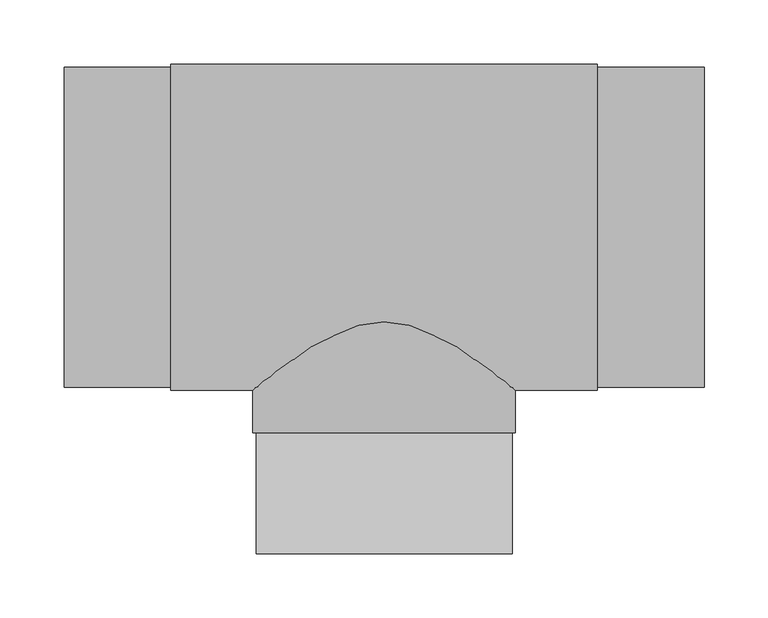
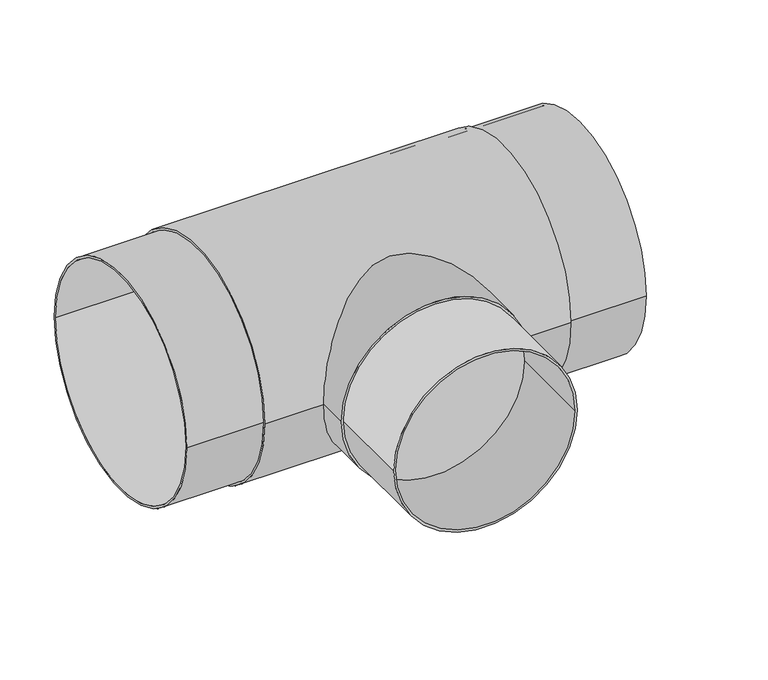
"""IFC4 building model written with IfcOpenShell, lengths in millimetres: pipe fitting geometry, EGB_VASEN_ PPR_Te a tope WXRB300_Te reducida a tope WXRB310 : Te a tope."""

import ifcopenshell
import ifcopenshell.guid

model = None  # the IFC model being written
_history = None  # IfcOwnerHistory: only IFC2X3 demands one
_inside = {}  # id of a spatial element -> (the spatial element, [elements in it])
_under = {}  # id of a project, library or spatial element -> (it, [spatial elements below it])
_declared = {}  # id of a project -> (the project, [libraries it declares])
_typed = {}  # id of a type object -> (the type object, [elements of that type])
_made_of = {}  # id of a material, layer set ... -> (it, [elements and type objects made of it])


def new_model(schema):
    """Start an empty IFC model of exactly this schema.

    Asked for "IFC4X3", IfcOpenShell would pick the latest addendum, in which some entities
    have other attributes; the version numbers below select the first issue.
    IFC2X3 requires an IfcOwnerHistory on every rooted entity: one is made here for all.
    """
    global model, _history
    if schema == "IFC4X3":
        model = ifcopenshell.file(schema_version=(4, 3, 0, 0))
    else:
        model = ifcopenshell.file(schema=schema)
    _inside.clear()
    _under.clear()
    _declared.clear()
    _typed.clear()
    _made_of.clear()
    _history = None
    if model.schema == "IFC2X3":
        org = make("IfcOrganization", Name="unknown")
        user = make(
            "IfcPersonAndOrganization",
            ThePerson=make("IfcPerson", FamilyName="unknown"),
            TheOrganization=org,
        )
        app = make(
            "IfcApplication",
            ApplicationDeveloper=org,
            Version="unknown",
            ApplicationFullName="unknown",
            ApplicationIdentifier="unknown",
        )
        _history = make(
            "IfcOwnerHistory",
            OwningUser=user,
            OwningApplication=app,
            ChangeAction="ADDED",
            CreationDate=0,
        )
    return model


def make(cls, **values):
    """One entity of the class cls with the attributes given. An attribute that is None is left unset."""
    return model.create_entity(
        cls, **{name: value for name, value in values.items() if value is not None}
    )


def rooted(cls, **values):
    """An entity with a GlobalId (a new one), such as an element, a storey or a relation."""
    return make(cls, GlobalId=ifcopenshell.guid.new(), OwnerHistory=_history, **values)


def si_unit(unit_type, name, prefix=None):
    """IfcSIUnit, for example si_unit("LENGTHUNIT", "METRE", prefix="MILLI")."""
    return make("IfcSIUnit", UnitType=unit_type, Prefix=prefix, Name=name)


def assignment(units):
    """IfcUnitAssignment: the units of a project."""
    return None if units is None else make("IfcUnitAssignment", Units=units)


def point(xyz):
    """IfcCartesianPoint."""
    return None if xyz is None else make("IfcCartesianPoint", Coordinates=xyz)


def direction(xyz):
    """IfcDirection."""
    return None if xyz is None else make("IfcDirection", DirectionRatios=xyz)


def frame(location, z_axis=None, x_axis=None):
    """IfcAxis2Placement3D, a coordinate frame: its origin and axes. An axis left out is left unset."""
    return make(
        "IfcAxis2Placement3D",
        Location=point(location),
        Axis=direction(z_axis),
        RefDirection=direction(x_axis),
    )


def frame_2d(location, x_axis=None):
    """IfcAxis2Placement2D, a coordinate frame in the plane: its origin and x axis."""
    return make(
        "IfcAxis2Placement2D", Location=point(location), RefDirection=direction(x_axis)
    )


def origin():
    """The frame at (0, 0, 0) with its axes left unset."""
    return frame((0.0, 0.0, 0.0))


def origin_2d():
    """The frame at (0, 0) in the plane with its x axis left unset."""
    return frame_2d((0.0, 0.0))


def place(relative_to, where):
    """IfcLocalPlacement: puts the frame where relative to a parent placement (None: the world)."""
    return make(
        "IfcLocalPlacement", PlacementRelTo=relative_to, RelativePlacement=where
    )


def context(
    kind, dimensions, precision=None, world=None, true_north=None, identifier=None
):
    """IfcGeometricRepresentationContext, for example the 3D "Model" context."""
    return make(
        "IfcGeometricRepresentationContext",
        ContextIdentifier=identifier,
        ContextType=kind,
        CoordinateSpaceDimension=dimensions,
        Precision=precision,
        WorldCoordinateSystem=world,
        TrueNorth=true_north,
    )


def project(units=None, contexts=None):
    """IfcProject with its units and contexts."""
    return rooted(
        "IfcProject",
        Name="project",
        RepresentationContexts=contexts,
        UnitsInContext=assignment(units),
    )


def spatial(cls, under=None, at=None, **own):
    """A site, building, storey or space (cls), placed at a placement, below another one or the project."""
    s = rooted(cls, ObjectPlacement=at, **own)
    if under is not None:
        _under.setdefault(under.id(), (under, []))[1].append(s)
    return s


def circle_curve(where, radius):
    """IfcCircle in the frame where."""
    return make("IfcCircle", Position=where, Radius=radius)


def trimmed(basis, trim1, trim2, sense, master):
    """IfcTrimmedCurve: the piece of a basis curve between two trims."""
    return make(
        "IfcTrimmedCurve",
        BasisCurve=basis,
        Trim1=trim1,
        Trim2=trim2,
        SenseAgreement=sense,
        MasterRepresentation=master,
    )


def segment(curve, same_sense, transition):
    """IfcCompositeCurveSegment."""
    return make(
        "IfcCompositeCurveSegment",
        Transition=transition,
        SameSense=same_sense,
        ParentCurve=curve,
    )


def composite_curve(segments, self_intersect=None):
    """IfcCompositeCurve: segments joined end to end."""
    return make("IfcCompositeCurve", Segments=segments, SelfIntersect=self_intersect)


def outline(outer, holes=None, kind="AREA"):
    """IfcArbitraryClosedProfileDef: a profile drawn as a closed curve; with holes, ...WithVoids."""
    if holes is None:
        return make("IfcArbitraryClosedProfileDef", ProfileType=kind, OuterCurve=outer)
    return make(
        "IfcArbitraryProfileDefWithVoids",
        ProfileType=kind,
        OuterCurve=outer,
        InnerCurves=holes,
    )


def extrude(swept, where, along, depth):
    """IfcExtrudedAreaSolid: the profile swept, set in the frame where, extruded along a direction by depth."""
    return make(
        "IfcExtrudedAreaSolid",
        SweptArea=swept,
        Position=where,
        ExtrudedDirection=direction(along),
        Depth=depth,
    )


def shape(context_of_items, identifier, shape_type, items):
    """IfcShapeRepresentation: the items that make up one representation, for example the "Body"."""
    return make(
        "IfcShapeRepresentation",
        ContextOfItems=context_of_items,
        RepresentationIdentifier=identifier,
        RepresentationType=shape_type,
        Items=items,
    )


def source(mapping_origin, context_of_items, identifier, shape_type, items):
    """IfcRepresentationMap: a shape defined once, which mapped items show again and again."""
    return make(
        "IfcRepresentationMap",
        MappingOrigin=mapping_origin,
        MappedRepresentation=shape(context_of_items, identifier, shape_type, items),
    )


def transform(
    local_origin,
    x_axis=None,
    y_axis=None,
    z_axis=None,
    scale=None,
    scale2=None,
    scale3=None,
    uniform=True,
):
    """IfcCartesianTransformationOperator3D, or its non-uniform kind. x_axis, y_axis, z_axis: its Axis1, 2, 3."""
    if uniform:
        return make(
            "IfcCartesianTransformationOperator3D",
            Axis1=direction(x_axis),
            Axis2=direction(y_axis),
            LocalOrigin=point(local_origin),
            Scale=scale,
            Axis3=direction(z_axis),
        )
    return make(
        "IfcCartesianTransformationOperator3DnonUniform",
        Axis1=direction(x_axis),
        Axis2=direction(y_axis),
        LocalOrigin=point(local_origin),
        Scale=scale,
        Axis3=direction(z_axis),
        Scale2=scale2,
        Scale3=scale3,
    )


def mapped(mapping_source, mapping_target):
    """IfcMappedItem: shows the shape of a source again, moved by a transform."""
    return make(
        "IfcMappedItem", MappingSource=mapping_source, MappingTarget=mapping_target
    )


def made_of(thing, what):
    """Note that an element or type object is made of a material, layer set ...; save() writes the relation."""
    if what is not None:
        _made_of.setdefault(what.id(), (what, []))[1].append(thing)
    return thing


def element(
    cls,
    number,
    at=None,
    inside=None,
    cuts=None,
    type_object=None,
    material=None,
    context=None,
    identifier="Body",
    shape_type=None,
    held_by="IfcProductDefinitionShape",
    body=None,
    shapes=None,
    **own,
):
    """One element of the class cls, such as IfcWall. Its Tag is "e" and its number.

    at: its placement. inside: the storey or other place that contains it. cuts: it is an
    opening in that element (IfcRelVoidsElement). A single representation is given by context,
    identifier, shape_type and body (its items); several are given by shapes. held_by: the class
    of the entity that holds the representations. save() writes the other relations.
    """
    e = rooted(cls, Tag="e%d" % number, ObjectPlacement=at, **own)
    if body is not None:
        shapes = [shape(context, identifier, shape_type, body)]
    if shapes is not None:
        e.Representation = make(held_by, Representations=shapes)
    if inside is not None:
        _inside.setdefault(inside.id(), (inside, []))[1].append(e)
    if cuts is not None:
        rooted(
            "IfcRelVoidsElement", RelatingBuildingElement=cuts, RelatedOpeningElement=e
        )
    if type_object is not None:
        _typed.setdefault(type_object.id(), (type_object, []))[1].append(e)
    return made_of(e, material)


def aggregate(whole, parts):
    """IfcRelAggregates: a whole, such as a stair, and the parts it consists of."""
    return rooted("IfcRelAggregates", RelatingObject=whole, RelatedObjects=parts)


def save(model, path):
    """Write the relations noted so far, then the file.

    IfcRelAggregates (storeys below a building ...), IfcRelContainedInSpatialStructure (elements
    in a storey), IfcRelDefinesByType, IfcRelAssociatesMaterial and IfcRelDeclares: one each for
    every whole, place, type object, material and project.
    """
    for whole, parts in _under.values():
        aggregate(whole, parts)
    for where, things in _inside.values():
        rooted(
            "IfcRelContainedInSpatialStructure",
            RelatedElements=things,
            RelatingStructure=where,
        )
    for kind, things in _typed.values():
        rooted("IfcRelDefinesByType", RelatedObjects=things, RelatingType=kind)
    for what, things in _made_of.values():
        rooted("IfcRelAssociatesMaterial", RelatedObjects=things, RelatingMaterial=what)
    for by, libraries in _declared.values():
        rooted("IfcRelDeclares", RelatingContext=by, RelatedDefinitions=libraries)
    model.write(path)


def pipe_fitting_3bc3d8bd(model_context):
    return source(origin(), model_context, "Body", "SweptSolid", [
        extrude(outline(composite_curve([segment(trimmed(circle_curve(origin_2d(), 100.0), [point((0.0, 100.0))], [point((0.0, -100.0))], False, "CARTESIAN"), True, "CONTINUOUS"), segment(trimmed(circle_curve(origin_2d(), 100.0), [point((0.0, -100.0))], [point((0.0, 100.0))], False, "CARTESIAN"), True, "CONTINUOUS")], self_intersect=False), holes=[composite_curve([segment(trimmed(circle_curve(origin_2d(), 97.5), [point((0.0, 97.5))], [point((0.0, -97.5))], True, "CARTESIAN"), True, "CONTINUOUS"), segment(trimmed(circle_curve(origin_2d(), 97.5), [point((0.0, -97.5))], [point((0.0, 97.5))], True, "CARTESIAN"), True, "CONTINUOUS")], self_intersect=False)]), frame((0.0, -255.0, 0.0), z_axis=(0.0, 1.0, 0.0), x_axis=(0.0, 0.0, 1.0)), (0.0, 0.0, 1.0), 94.5),
        extrude(outline(composite_curve([segment(trimmed(circle_curve(origin_2d(), 102.5), [point((0.0, 102.5))], [point((0.0, -102.5))], False, "CARTESIAN"), True, "CONTINUOUS"), segment(trimmed(circle_curve(origin_2d(), 102.5), [point((0.0, -102.5))], [point((0.0, 102.5))], False, "CARTESIAN"), True, "CONTINUOUS")], self_intersect=False)), frame((0.0, -160.5, 0.0), z_axis=(0.0, 1.0, 0.0), x_axis=(0.0, 0.0, 1.0)), (0.0, 0.0, 1.0), 160.5),
        extrude(outline(composite_curve([segment(trimmed(circle_curve(origin_2d(), 127.5), [point((-127.5, 0.0))], [point((127.5, 0.0))], False, "CARTESIAN"), True, "CONTINUOUS"), segment(trimmed(circle_curve(origin_2d(), 127.5), [point((127.5, 0.0))], [point((-127.5, 0.0))], False, "CARTESIAN"), True, "CONTINUOUS")], self_intersect=False), holes=[composite_curve([segment(trimmed(circle_curve(origin_2d(), 125.0), [point((-125.0, 0.0))], [point((125.0, 0.0))], True, "CARTESIAN"), True, "CONTINUOUS"), segment(trimmed(circle_curve(origin_2d(), 125.0), [point((125.0, 0.0))], [point((-125.0, 0.0))], True, "CARTESIAN"), True, "CONTINUOUS")], self_intersect=False)]), frame((-166.6666667, 0.0, 0.0), z_axis=(1.0, 0.0, 0.0), x_axis=(0.0, 1.0, 0.0)), (0.0, 0.0, 1.0), 333.3333333),
        extrude(outline(composite_curve([segment(trimmed(circle_curve(origin_2d(), 125.0), [point((-125.0, 0.0))], [point((125.0, 0.0))], False, "CARTESIAN"), True, "CONTINUOUS"), segment(trimmed(circle_curve(origin_2d(), 125.0), [point((125.0, 0.0))], [point((-125.0, 0.0))], False, "CARTESIAN"), True, "CONTINUOUS")], self_intersect=False), holes=[composite_curve([segment(trimmed(circle_curve(origin_2d(), 122.5), [point((-122.5, 0.0))], [point((122.5, 0.0))], True, "CARTESIAN"), True, "CONTINUOUS"), segment(trimmed(circle_curve(origin_2d(), 122.5), [point((122.5, 0.0))], [point((-122.5, 0.0))], True, "CARTESIAN"), True, "CONTINUOUS")], self_intersect=False)]), frame((-250.0, 0.0, 0.0), z_axis=(1.0, 0.0, 0.0), x_axis=(0.0, 1.0, 0.0)), (0.0, 0.0, 1.0), 500.0),
    ])


if __name__ == "__main__":
    model = new_model("IFC4")
    model_context = context("Model", 3, world=origin())
    ifc_project = project(units=[si_unit("LENGTHUNIT", "METRE", prefix="MILLI")], contexts=[model_context])
    site = spatial("IfcSite", under=ifc_project)
    building = spatial("IfcBuilding", under=site)
    placement = place(None, origin())
    pipe_fitting_shape = pipe_fitting_3bc3d8bd(model_context)
    element("IfcPipeFitting", 1, ObjectType="EGB_VASEN_ PPR_Te a tope WXRB300_Te reducida a tope WXRB310 : Te a tope", at=placement, inside=building, context=model_context, shape_type="MappedRepresentation", body=[
        mapped(pipe_fitting_shape, transform((0.0, 0.0, 0.0), x_axis=(1.0, 0.0, 0.0), y_axis=(0.0, 1.0, 0.0), z_axis=(0.0, 0.0, 1.0))),
    ])
    save(model, "model.ifc")
